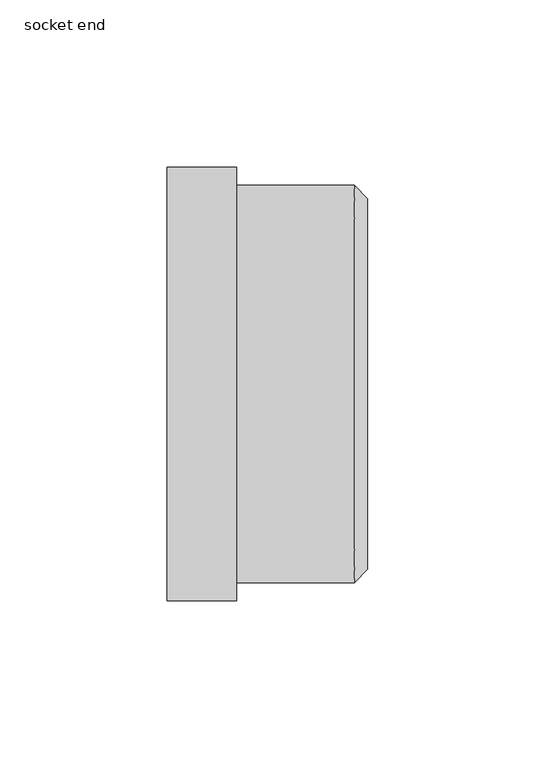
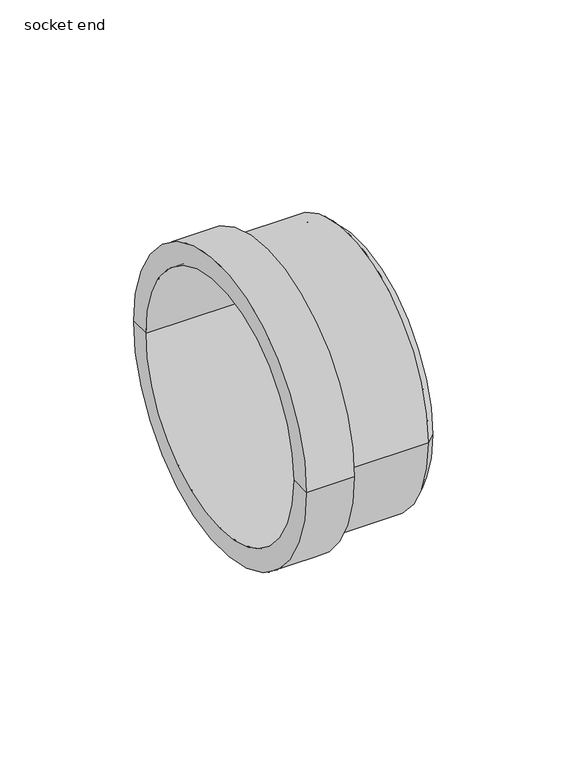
"""IFC4 building model written with IfcOpenShell, lengths in millimetres: pipe fitting geometry, Wavin_PipeFitting_AsPlusPipeSocket : socket end."""

import ifcopenshell
import ifcopenshell.guid

model = None  # the IFC model being written
_history = None  # IfcOwnerHistory: only IFC2X3 demands one
_inside = {}  # id of a spatial element -> (the spatial element, [elements in it])
_under = {}  # id of a project, library or spatial element -> (it, [spatial elements below it])
_declared = {}  # id of a project -> (the project, [libraries it declares])
_typed = {}  # id of a type object -> (the type object, [elements of that type])
_made_of = {}  # id of a material, layer set ... -> (it, [elements and type objects made of it])


def new_model(schema):
    """Start an empty IFC model of exactly this schema.

    Asked for "IFC4X3", IfcOpenShell would pick the latest addendum, in which some entities
    have other attributes; the version numbers below select the first issue.
    IFC2X3 requires an IfcOwnerHistory on every rooted entity: one is made here for all.
    """
    global model, _history
    if schema == "IFC4X3":
        model = ifcopenshell.file(schema_version=(4, 3, 0, 0))
    else:
        model = ifcopenshell.file(schema=schema)
    _inside.clear()
    _under.clear()
    _declared.clear()
    _typed.clear()
    _made_of.clear()
    _history = None
    if model.schema == "IFC2X3":
        org = make("IfcOrganization", Name="unknown")
        user = make(
            "IfcPersonAndOrganization",
            ThePerson=make("IfcPerson", FamilyName="unknown"),
            TheOrganization=org,
        )
        app = make(
            "IfcApplication",
            ApplicationDeveloper=org,
            Version="unknown",
            ApplicationFullName="unknown",
            ApplicationIdentifier="unknown",
        )
        _history = make(
            "IfcOwnerHistory",
            OwningUser=user,
            OwningApplication=app,
            ChangeAction="ADDED",
            CreationDate=0,
        )
    return model


def make(cls, **values):
    """One entity of the class cls with the attributes given. An attribute that is None is left unset."""
    return model.create_entity(
        cls, **{name: value for name, value in values.items() if value is not None}
    )


def rooted(cls, **values):
    """An entity with a GlobalId (a new one), such as an element, a storey or a relation."""
    return make(cls, GlobalId=ifcopenshell.guid.new(), OwnerHistory=_history, **values)


def si_unit(unit_type, name, prefix=None):
    """IfcSIUnit, for example si_unit("LENGTHUNIT", "METRE", prefix="MILLI")."""
    return make("IfcSIUnit", UnitType=unit_type, Prefix=prefix, Name=name)


def assignment(units):
    """IfcUnitAssignment: the units of a project."""
    return None if units is None else make("IfcUnitAssignment", Units=units)


def point(xyz):
    """IfcCartesianPoint."""
    return None if xyz is None else make("IfcCartesianPoint", Coordinates=xyz)


def direction(xyz):
    """IfcDirection."""
    return None if xyz is None else make("IfcDirection", DirectionRatios=xyz)


def frame(location, z_axis=None, x_axis=None):
    """IfcAxis2Placement3D, a coordinate frame: its origin and axes. An axis left out is left unset."""
    return make(
        "IfcAxis2Placement3D",
        Location=point(location),
        Axis=direction(z_axis),
        RefDirection=direction(x_axis),
    )


def origin():
    """The frame at (0, 0, 0) with its axes left unset."""
    return frame((0.0, 0.0, 0.0))


def place(relative_to, where):
    """IfcLocalPlacement: puts the frame where relative to a parent placement (None: the world)."""
    return make(
        "IfcLocalPlacement", PlacementRelTo=relative_to, RelativePlacement=where
    )


def context(
    kind, dimensions, precision=None, world=None, true_north=None, identifier=None
):
    """IfcGeometricRepresentationContext, for example the 3D "Model" context."""
    return make(
        "IfcGeometricRepresentationContext",
        ContextIdentifier=identifier,
        ContextType=kind,
        CoordinateSpaceDimension=dimensions,
        Precision=precision,
        WorldCoordinateSystem=world,
        TrueNorth=true_north,
    )


def project(units=None, contexts=None):
    """IfcProject with its units and contexts."""
    return rooted(
        "IfcProject",
        Name="project",
        RepresentationContexts=contexts,
        UnitsInContext=assignment(units),
    )


def spatial(cls, under=None, at=None, **own):
    """A site, building, storey or space (cls), placed at a placement, below another one or the project."""
    s = rooted(cls, ObjectPlacement=at, **own)
    if under is not None:
        _under.setdefault(under.id(), (under, []))[1].append(s)
    return s


def polyline(points):
    """IfcPolyline through the points."""
    return make("IfcPolyline", Points=[point(p) for p in points])


def circle_curve(where, radius):
    """IfcCircle in the frame where."""
    return make("IfcCircle", Position=where, Radius=radius)


def shape(context_of_items, identifier, shape_type, items):
    """IfcShapeRepresentation: the items that make up one representation, for example the "Body"."""
    return make(
        "IfcShapeRepresentation",
        ContextOfItems=context_of_items,
        RepresentationIdentifier=identifier,
        RepresentationType=shape_type,
        Items=items,
    )


def source(mapping_origin, context_of_items, identifier, shape_type, items):
    """IfcRepresentationMap: a shape defined once, which mapped items show again and again."""
    return make(
        "IfcRepresentationMap",
        MappingOrigin=mapping_origin,
        MappedRepresentation=shape(context_of_items, identifier, shape_type, items),
    )


def transform(
    local_origin,
    x_axis=None,
    y_axis=None,
    z_axis=None,
    scale=None,
    scale2=None,
    scale3=None,
    uniform=True,
):
    """IfcCartesianTransformationOperator3D, or its non-uniform kind. x_axis, y_axis, z_axis: its Axis1, 2, 3."""
    if uniform:
        return make(
            "IfcCartesianTransformationOperator3D",
            Axis1=direction(x_axis),
            Axis2=direction(y_axis),
            LocalOrigin=point(local_origin),
            Scale=scale,
            Axis3=direction(z_axis),
        )
    return make(
        "IfcCartesianTransformationOperator3DnonUniform",
        Axis1=direction(x_axis),
        Axis2=direction(y_axis),
        LocalOrigin=point(local_origin),
        Scale=scale,
        Axis3=direction(z_axis),
        Scale2=scale2,
        Scale3=scale3,
    )


def mapped(mapping_source, mapping_target):
    """IfcMappedItem: shows the shape of a source again, moved by a transform."""
    return make(
        "IfcMappedItem", MappingSource=mapping_source, MappingTarget=mapping_target
    )


def made_of(thing, what):
    """Note that an element or type object is made of a material, layer set ...; save() writes the relation."""
    if what is not None:
        _made_of.setdefault(what.id(), (what, []))[1].append(thing)
    return thing


def element(
    cls,
    number,
    at=None,
    inside=None,
    cuts=None,
    type_object=None,
    material=None,
    context=None,
    identifier="Body",
    shape_type=None,
    held_by="IfcProductDefinitionShape",
    body=None,
    shapes=None,
    **own,
):
    """One element of the class cls, such as IfcWall. Its Tag is "e" and its number.

    at: its placement. inside: the storey or other place that contains it. cuts: it is an
    opening in that element (IfcRelVoidsElement). A single representation is given by context,
    identifier, shape_type and body (its items); several are given by shapes. held_by: the class
    of the entity that holds the representations. save() writes the other relations.
    """
    e = rooted(cls, Tag="e%d" % number, ObjectPlacement=at, **own)
    if body is not None:
        shapes = [shape(context, identifier, shape_type, body)]
    if shapes is not None:
        e.Representation = make(held_by, Representations=shapes)
    if inside is not None:
        _inside.setdefault(inside.id(), (inside, []))[1].append(e)
    if cuts is not None:
        rooted(
            "IfcRelVoidsElement", RelatingBuildingElement=cuts, RelatedOpeningElement=e
        )
    if type_object is not None:
        _typed.setdefault(type_object.id(), (type_object, []))[1].append(e)
    return made_of(e, material)


def aggregate(whole, parts):
    """IfcRelAggregates: a whole, such as a stair, and the parts it consists of."""
    return rooted("IfcRelAggregates", RelatingObject=whole, RelatedObjects=parts)


def save(model, path):
    """Write the relations noted so far, then the file.

    IfcRelAggregates (storeys below a building ...), IfcRelContainedInSpatialStructure (elements
    in a storey), IfcRelDefinesByType, IfcRelAssociatesMaterial and IfcRelDeclares: one each for
    every whole, place, type object, material and project.
    """
    for whole, parts in _under.values():
        aggregate(whole, parts)
    for where, things in _inside.values():
        rooted(
            "IfcRelContainedInSpatialStructure",
            RelatedElements=things,
            RelatingStructure=where,
        )
    for kind, things in _typed.values():
        rooted("IfcRelDefinesByType", RelatedObjects=things, RelatingType=kind)
    for what, things in _made_of.values():
        rooted("IfcRelAssociatesMaterial", RelatedObjects=things, RelatingMaterial=what)
    for by, libraries in _declared.values():
        rooted("IfcRelDeclares", RelatingContext=by, RelatedDefinitions=libraries)
    model.write(path)


def plane_surface(at):
    """IfcPlane: the flat surface through the origin of the frame at, square to its z axis."""
    return make("IfcPlane", Position=at)


def cylinder_surface(at, radius):
    """IfcCylindricalSurface: all points at the distance radius from the z axis of the frame at."""
    return make("IfcCylindricalSurface", Position=at, Radius=radius)


def revolved_surface(curve, axis_point, axis_direction):
    """IfcSurfaceOfRevolution: the curve turned about the line through axis_point along axis_direction."""
    return make(
        "IfcSurfaceOfRevolution",
        SweptCurve=make("IfcArbitraryOpenProfileDef", ProfileType="CURVE", Curve=curve),
        AxisPosition=make("IfcAxis1Placement", Location=point(axis_point), Axis=direction(axis_direction)),
    )


def advanced_brep(points, edges, surfaces, faces):
    """IfcAdvancedBrep: a solid bounded by faces that lie on surfaces and meet in shared edges.

    An edge is (start, end): straight between two places in points (the first is 0);
    or (start, end, curve); or (start, end, curve, False) where it runs against its curve.
    A face is (place in surfaces, loops), or (place, loops, False) where it looks against
    its surface's normal. A loop lists edges by number (the first is 1), with a minus sign
    where the edge is run from its end to its start. The first loop is the outer one.
    """
    corners = [point(p) for p in points]
    vertices = [make("IfcVertexPoint", VertexGeometry=c) for c in corners]
    made = []
    for start, end, *more in edges:
        made.append(
            make(
                "IfcEdgeCurve",
                EdgeStart=vertices[start],
                EdgeEnd=vertices[end],
                EdgeGeometry=more[0] if more else make("IfcPolyline", Points=[corners[start], corners[end]]),
                SameSense=more[1] if len(more) > 1 else True,
            )
        )
    hull = []
    for where, loops, *sense in faces:
        bounds = []
        for j, loop in enumerate(loops):
            ring = [make("IfcOrientedEdge", EdgeElement=made[abs(k) - 1], Orientation=k > 0) for k in loop]
            bounds.append(
                make(
                    "IfcFaceOuterBound" if j == 0 else "IfcFaceBound",
                    Bound=make("IfcEdgeLoop", EdgeList=ring),
                    Orientation=True,
                )
            )
        hull.append(make("IfcAdvancedFace", Bounds=bounds, FaceSurface=surfaces[where], SameSense=sense[0] if sense else True))
    return make("IfcAdvancedBrep", Outer=make("IfcClosedShell", CfsFaces=hull))


def socket_end_af24ac37(model_context):
    return source(origin(), model_context, "Body", "AdvancedBrep", [
        advanced_brep(
        [(4.0, 55.4, 0.0), (4.0, -55.4, 0.0), (0.0, -59.4, 0.0), (0.0, 59.4, 0.0), (4.0, 0.0, 0.0), (0.0, 55.4, 0.0), (0.0, -55.4, 0.0), (0.0, 0.0, 0.0), (-55.9, 55.4, 0.0), (-55.9, -55.4, 0.0), (-55.9, 64.7, 0.0), (-55.9, -64.7, 0.0), (-35.2, 64.7, 0.0), (-35.2, -64.7, 0.0), (-35.2, 59.4, 0.0), (-35.2, -59.4, 0.0)],
        [
            (0, 1, circle_curve(frame((4.0, 0.0, 0.0), z_axis=(-1.0, 0.0, 0.0), x_axis=(0.0, -1.0000000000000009, 0.0)), 55.4)),
            (1, 2),
            (2, 3, circle_curve(frame((0.0, 0.0, 0.0), z_axis=(1.0, 0.0, 0.0), x_axis=(0.0, -1.0000000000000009, 0.0)), 59.4)),
            (3, 0),
            (1, 0, circle_curve(frame((4.0, 0.0, 0.0), z_axis=(-1.0, 0.0, 0.0), x_axis=(0.0, -1.0000000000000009, 0.0)), 55.4)),
            (3, 2, circle_curve(frame((0.0, 0.0, 0.0), z_axis=(1.0, 0.0, 0.0), x_axis=(0.0, -1.0000000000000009, 0.0)), 59.4)),
            (4, 1),
            (0, 4),
            (5, 6, circle_curve(frame((0.0, 0.0, 0.0), z_axis=(-1.0, 0.0, 0.0), x_axis=(0.0, -1.0000000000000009, 0.0)), 55.4)),
            (6, 7),
            (7, 5),
            (6, 5, circle_curve(frame((0.0, 0.0, 0.0), z_axis=(-1.0, 0.0, 0.0), x_axis=(0.0, -1.0000000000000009, 0.0)), 55.4)),
            (8, 9, circle_curve(frame((-55.9, 0.0, 0.0), z_axis=(-1.0, 0.0, 0.0), x_axis=(0.0, -1.0000000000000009, 0.0)), 55.4)),
            (9, 6),
            (5, 8),
            (9, 8, circle_curve(frame((-55.9, 0.0, 0.0), z_axis=(-1.0, 0.0, 0.0), x_axis=(0.0, -1.0000000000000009, 0.0)), 55.4)),
            (10, 11, circle_curve(frame((-55.9, 0.0, 0.0), z_axis=(-1.0, 0.0, 0.0), x_axis=(0.0, -1.0000000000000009, 0.0)), 64.7)),
            (11, 9),
            (8, 10),
            (11, 10, circle_curve(frame((-55.9, 0.0, 0.0), z_axis=(-1.0, 0.0, 0.0), x_axis=(0.0, -1.0000000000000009, 0.0)), 64.7)),
            (12, 13, circle_curve(frame((-35.2, 0.0, 0.0), z_axis=(-1.0, 0.0, 0.0), x_axis=(0.0, -1.0000000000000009, 0.0)), 64.7)),
            (13, 11),
            (10, 12),
            (13, 12, circle_curve(frame((-35.2, 0.0, 0.0), z_axis=(-1.0, 0.0, 0.0), x_axis=(0.0, -1.0000000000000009, 0.0)), 64.7)),
            (14, 15, circle_curve(frame((-35.2, 0.0, 0.0), z_axis=(-1.0, 0.0, 0.0), x_axis=(0.0, -1.0000000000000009, 0.0)), 59.4)),
            (15, 13),
            (12, 14),
            (15, 14, circle_curve(frame((-35.2, 0.0, 0.0), z_axis=(-1.0, 0.0, 0.0), x_axis=(0.0, -1.0000000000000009, 0.0)), 59.4)),
            (2, 15),
            (14, 3),
        ],
        [
            revolved_surface(polyline([(0.0, -59.4, 0.0), (4.0, -55.4, 0.0)]), (-1959.0265064, 0.0, 0.0), (1.0000000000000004, 0.0, 0.0)),
            plane_surface(frame((4.0, 0.0, 0.0), z_axis=(1.0, 0.0, 0.0), x_axis=(0.0, -1.0, 0.0))),
            plane_surface(frame((0.0, 0.0, 0.0), z_axis=(-1.0, 0.0, 0.0), x_axis=(0.0, -1.0, 0.0))),
            revolved_surface(polyline([(1.8189894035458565e-12, -55.40000000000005, 0.0), (-55.89999999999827, -55.40000000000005, 0.0)]), (-1959.0265064, 0.0, 0.0), (1.0000000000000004, 0.0, 0.0)),
            plane_surface(frame((-55.9, 0.0, 0.0), z_axis=(-1.0, 0.0, 0.0), x_axis=(0.0, -1.0, 0.0))),
            cylinder_surface(frame((-1959.0265064, 0.0, 0.0), z_axis=(1.0000000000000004, 0.0, 0.0), x_axis=(0.0, -1.0000000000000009, 0.0)), 64.7),
            plane_surface(frame((-35.2, 0.0, 0.0), z_axis=(1.0, 0.0, 0.0), x_axis=(0.0, -1.0, 0.0))),
            cylinder_surface(frame((-1959.0265064, 0.0, 0.0), z_axis=(1.0000000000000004, 0.0, 0.0), x_axis=(0.0, -1.0000000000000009, 0.0)), 59.4),
        ],
        [
            (0, [[1, 2, 3, 4]]),
            (0, [[5, -4, 6, -2]]),
            (1, [[7, -1, 8]]),
            (1, [[-8, -5, -7]]),
            (2, [[9, 10, 11]]),
            (2, [[12, -11, -10]]),
            (3, [[13, 14, -9, 15]]),
            (3, [[16, -15, -12, -14]]),
            (4, [[17, 18, -13, 19]]),
            (4, [[20, -19, -16, -18]]),
            (5, [[21, 22, -17, 23]]),
            (5, [[24, -23, -20, -22]]),
            (6, [[25, 26, -21, 27]]),
            (6, [[28, -27, -24, -26]]),
            (7, [[-3, 29, -25, 30]]),
            (7, [[-6, -30, -28, -29]]),
        ],
    ),
    ])


if __name__ == "__main__":
    model = new_model("IFC4")
    model_context = context("Model", 3, world=origin())
    ifc_project = project(units=[si_unit("LENGTHUNIT", "METRE", prefix="MILLI")], contexts=[model_context])
    site = spatial("IfcSite", under=ifc_project)
    building = spatial("IfcBuilding", under=site)
    placement = place(None, origin())
    socket_end_shape = socket_end_af24ac37(model_context)
    element("IfcPipeFitting", 1, ObjectType="Wavin_PipeFitting_AsPlusPipeSocket : socket end", at=placement, inside=building, context=model_context, shape_type="MappedRepresentation", body=[
        mapped(socket_end_shape, transform((0.0, 0.0, 0.0), x_axis=(1.0, 0.0, 0.0), y_axis=(0.0, 1.0, 0.0), z_axis=(0.0, 0.0, 1.0))),
    ])
    save(model, "model.ifc")
